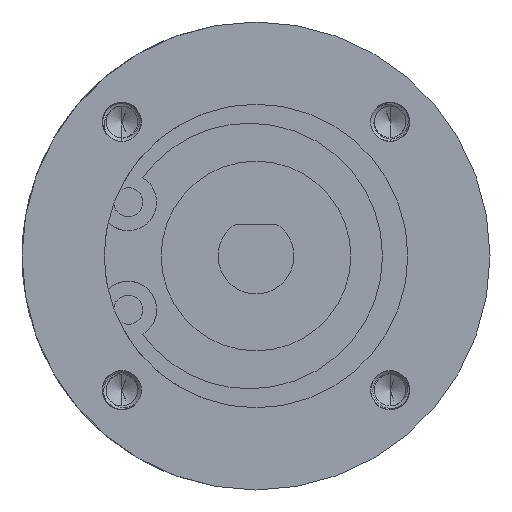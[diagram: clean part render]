
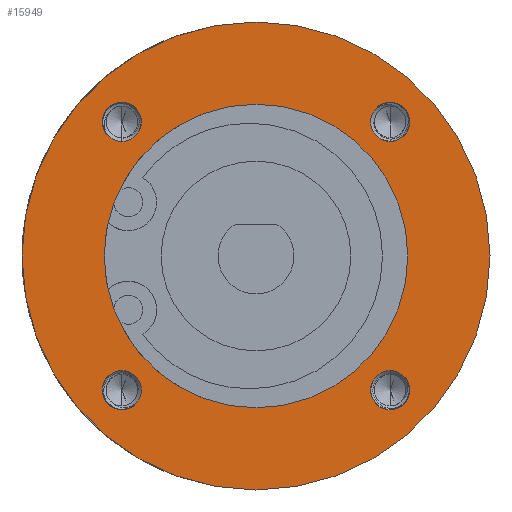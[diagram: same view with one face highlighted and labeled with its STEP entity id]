
A CAD part, left-side view. The second image highlights one B-rep face of the part: STEP entity #15949.
In plain terms, the highlighted planar face has unit normal (-1, 0, 0).
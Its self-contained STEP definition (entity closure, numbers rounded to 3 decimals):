
#390 = CARTESIAN_POINT ( 'NONE',  ( -19., 0., 18.5 ) ) ;
#441 = AXIS2_PLACEMENT_3D ( 'NONE', #4261, #11053, #10838 ) ;
#470 = VERTEX_POINT ( 'NONE', #6065 ) ;
#676 = CARTESIAN_POINT ( 'NONE',  ( -19., 10.607, 10.607 ) ) ;
#876 = EDGE_CURVE ( 'NONE', #13127, #10007, #6056, .T. ) ;
#878 = EDGE_LOOP ( 'NONE', ( #10673, #4763 ) ) ;
#1046 = DIRECTION ( 'NONE',  ( 0., 0., -1. ) ) ;
#1270 = CARTESIAN_POINT ( 'NONE',  ( -19., -10.607, -10.607 ) ) ;
#1383 = EDGE_CURVE ( 'NONE', #14547, #20508, #6130, .T. ) ;
#1467 = EDGE_CURVE ( 'NONE', #470, #19005, #19618, .T. ) ;
#1501 = EDGE_LOOP ( 'NONE', ( #7264, #9776 ) ) ;
#1585 = VERTEX_POINT ( 'NONE', #17810 ) ;
#1655 = FACE_BOUND ( 'NONE', #2922, .T. ) ;
#1696 = DIRECTION ( 'NONE',  ( 1., 0., 0. ) ) ;
#1872 = FACE_BOUND ( 'NONE', #12588, .T. ) ;
#2027 = ORIENTED_EDGE ( 'NONE', *, *, #3892, .T. ) ;
#2082 = AXIS2_PLACEMENT_3D ( 'NONE', #20740, #15626, #3611 ) ;
#2594 = AXIS2_PLACEMENT_3D ( 'NONE', #18816, #1696, #10373 ) ;
#2749 = EDGE_CURVE ( 'NONE', #10007, #13127, #7227, .T. ) ;
#2907 = DIRECTION ( 'NONE',  ( -1., 0., 0. ) ) ;
#2922 = EDGE_LOOP ( 'NONE', ( #4678, #2027 ) ) ;
#3062 = DIRECTION ( 'NONE',  ( -1., 0., 0. ) ) ;
#3183 = DIRECTION ( 'NONE',  ( 0., 0., -1. ) ) ;
#3341 = CIRCLE ( 'NONE', #18610, 1.55 ) ;
#3597 = DIRECTION ( 'NONE',  ( 1., 0., 0. ) ) ;
#3611 = DIRECTION ( 'NONE',  ( 0., 0., -1. ) ) ;
#3645 = AXIS2_PLACEMENT_3D ( 'NONE', #10485, #8823, #13935 ) ;
#3826 = ORIENTED_EDGE ( 'NONE', *, *, #5155, .T. ) ;
#3839 = AXIS2_PLACEMENT_3D ( 'NONE', #15333, #20555, #12221 ) ;
#3892 = EDGE_CURVE ( 'NONE', #17988, #5421, #3341, .T. ) ;
#4261 = CARTESIAN_POINT ( 'NONE',  ( -19., 10.607, -10.607 ) ) ;
#4265 = EDGE_CURVE ( 'NONE', #20508, #14547, #18762, .T. ) ;
#4388 = ORIENTED_EDGE ( 'NONE', *, *, #1383, .F. ) ;
#4489 = DIRECTION ( 'NONE',  ( 1., 0., 0. ) ) ;
#4657 = EDGE_LOOP ( 'NONE', ( #19891, #4388 ) ) ;
#4678 = ORIENTED_EDGE ( 'NONE', *, *, #4947, .T. ) ;
#4718 = CIRCLE ( 'NONE', #3645, 1.55 ) ;
#4763 = ORIENTED_EDGE ( 'NONE', *, *, #7713, .T. ) ;
#4947 = EDGE_CURVE ( 'NONE', #5421, #17988, #13462, .T. ) ;
#5107 = FACE_OUTER_BOUND ( 'NONE', #4657, .T. ) ;
#5155 = EDGE_CURVE ( 'NONE', #21045, #14775, #4718, .T. ) ;
#5421 = VERTEX_POINT ( 'NONE', #5913 ) ;
#5599 = CARTESIAN_POINT ( 'NONE',  ( -19., 10.607, -12.157 ) ) ;
#5700 = DIRECTION ( 'NONE',  ( 0., 0., -1. ) ) ;
#5778 = EDGE_CURVE ( 'NONE', #12423, #1585, #18925, .T. ) ;
#5913 = CARTESIAN_POINT ( 'NONE',  ( -19., 10.607, 12.157 ) ) ;
#5945 = CARTESIAN_POINT ( 'NONE',  ( -19., -10.607, -12.157 ) ) ;
#6056 = CIRCLE ( 'NONE', #13877, 1.55 ) ;
#6065 = CARTESIAN_POINT ( 'NONE',  ( -19., 10.607, -9.057 ) ) ;
#6130 = CIRCLE ( 'NONE', #8981, 18.5 ) ;
#6251 = DIRECTION ( 'NONE',  ( 0., 0., 1. ) ) ;
#6496 = CARTESIAN_POINT ( 'NONE',  ( -19., 10.607, 10.607 ) ) ;
#6635 = DIRECTION ( 'NONE',  ( 1., 0., 0. ) ) ;
#7211 = AXIS2_PLACEMENT_3D ( 'NONE', #9482, #2907, #6251 ) ;
#7227 = CIRCLE ( 'NONE', #2594, 1.55 ) ;
#7264 = ORIENTED_EDGE ( 'NONE', *, *, #876, .T. ) ;
#7713 = EDGE_CURVE ( 'NONE', #19005, #470, #17318, .T. ) ;
#7829 = CIRCLE ( 'NONE', #21015, 12. ) ;
#8288 = CARTESIAN_POINT ( 'NONE',  ( -19., 0., 0. ) ) ;
#8665 = FACE_BOUND ( 'NONE', #878, .T. ) ;
#8823 = DIRECTION ( 'NONE',  ( 1., 0., 0. ) ) ;
#8885 = PLANE ( 'NONE',  #3839 ) ;
#8981 = AXIS2_PLACEMENT_3D ( 'NONE', #9634, #3597, #20505 ) ;
#9482 = CARTESIAN_POINT ( 'NONE',  ( -19., 0., 0. ) ) ;
#9634 = CARTESIAN_POINT ( 'NONE',  ( -19., 0., 0. ) ) ;
#9776 = ORIENTED_EDGE ( 'NONE', *, *, #2749, .T. ) ;
#10007 = VERTEX_POINT ( 'NONE', #12847 ) ;
#10373 = DIRECTION ( 'NONE',  ( 0., 0., -1. ) ) ;
#10485 = CARTESIAN_POINT ( 'NONE',  ( -19., -10.607, -10.607 ) ) ;
#10673 = ORIENTED_EDGE ( 'NONE', *, *, #1467, .T. ) ;
#10838 = DIRECTION ( 'NONE',  ( 0., 0., -1. ) ) ;
#11053 = DIRECTION ( 'NONE',  ( 1., 0., 0. ) ) ;
#11080 = CARTESIAN_POINT ( 'NONE',  ( -19., -10.607, 10.607 ) ) ;
#11648 = CARTESIAN_POINT ( 'NONE',  ( -19., 10.607, -10.607 ) ) ;
#11683 = CIRCLE ( 'NONE', #15222, 1.55 ) ;
#12221 = DIRECTION ( 'NONE',  ( 0., 0., -1. ) ) ;
#12299 = CARTESIAN_POINT ( 'NONE',  ( -19., -10.607, 12.157 ) ) ;
#12311 = EDGE_LOOP ( 'NONE', ( #18868, #12963 ) ) ;
#12423 = VERTEX_POINT ( 'NONE', #17967 ) ;
#12588 = EDGE_LOOP ( 'NONE', ( #17296, #3826 ) ) ;
#12847 = CARTESIAN_POINT ( 'NONE',  ( -19., -10.607, 9.057 ) ) ;
#12963 = ORIENTED_EDGE ( 'NONE', *, *, #5778, .F. ) ;
#13127 = VERTEX_POINT ( 'NONE', #12299 ) ;
#13462 = CIRCLE ( 'NONE', #19129, 1.55 ) ;
#13714 = DIRECTION ( 'NONE',  ( 1., 0., 0. ) ) ;
#13877 = AXIS2_PLACEMENT_3D ( 'NONE', #11080, #17943, #15967 ) ;
#13935 = DIRECTION ( 'NONE',  ( 0., 0., -1. ) ) ;
#14137 = DIRECTION ( 'NONE',  ( 0., 0., -1. ) ) ;
#14208 = EDGE_CURVE ( 'NONE', #1585, #12423, #7829, .T. ) ;
#14547 = VERTEX_POINT ( 'NONE', #18403 ) ;
#14775 = VERTEX_POINT ( 'NONE', #15508 ) ;
#15222 = AXIS2_PLACEMENT_3D ( 'NONE', #1270, #4489, #1046 ) ;
#15333 = CARTESIAN_POINT ( 'NONE',  ( -19., 0., 0. ) ) ;
#15508 = CARTESIAN_POINT ( 'NONE',  ( -19., -10.607, -9.057 ) ) ;
#15626 = DIRECTION ( 'NONE',  ( 1., 0., 0. ) ) ;
#15661 = FACE_BOUND ( 'NONE', #1501, .T. ) ;
#15798 = DIRECTION ( 'NONE',  ( 1., 0., 0. ) ) ;
#15949 = ADVANCED_FACE ( 'NONE', ( #1655, #15661, #1872, #8665, #19104, #5107 ), #8885, .F. ) ;
#15967 = DIRECTION ( 'NONE',  ( 0., 0., -1. ) ) ;
#17296 = ORIENTED_EDGE ( 'NONE', *, *, #20744, .T. ) ;
#17318 = CIRCLE ( 'NONE', #21959, 1.55 ) ;
#17810 = CARTESIAN_POINT ( 'NONE',  ( -19., 0., 12. ) ) ;
#17943 = DIRECTION ( 'NONE',  ( 1., 0., 0. ) ) ;
#17967 = CARTESIAN_POINT ( 'NONE',  ( -19., 0., -12. ) ) ;
#17988 = VERTEX_POINT ( 'NONE', #21675 ) ;
#18403 = CARTESIAN_POINT ( 'NONE',  ( -19., 0., -18.5 ) ) ;
#18610 = AXIS2_PLACEMENT_3D ( 'NONE', #676, #15798, #14137 ) ;
#18762 = CIRCLE ( 'NONE', #2082, 18.5 ) ;
#18816 = CARTESIAN_POINT ( 'NONE',  ( -19., -10.607, 10.607 ) ) ;
#18868 = ORIENTED_EDGE ( 'NONE', *, *, #14208, .F. ) ;
#18925 = CIRCLE ( 'NONE', #7211, 12. ) ;
#19005 = VERTEX_POINT ( 'NONE', #5599 ) ;
#19104 = FACE_BOUND ( 'NONE', #12311, .T. ) ;
#19129 = AXIS2_PLACEMENT_3D ( 'NONE', #6496, #13714, #5700 ) ;
#19618 = CIRCLE ( 'NONE', #441, 1.55 ) ;
#19891 = ORIENTED_EDGE ( 'NONE', *, *, #4265, .F. ) ;
#20079 = DIRECTION ( 'NONE',  ( 0., 0., 1. ) ) ;
#20505 = DIRECTION ( 'NONE',  ( 0., 0., -1. ) ) ;
#20508 = VERTEX_POINT ( 'NONE', #390 ) ;
#20555 = DIRECTION ( 'NONE',  ( 1., 0., 0. ) ) ;
#20740 = CARTESIAN_POINT ( 'NONE',  ( -19., 0., 0. ) ) ;
#20744 = EDGE_CURVE ( 'NONE', #14775, #21045, #11683, .T. ) ;
#21015 = AXIS2_PLACEMENT_3D ( 'NONE', #8288, #3062, #20079 ) ;
#21045 = VERTEX_POINT ( 'NONE', #5945 ) ;
#21675 = CARTESIAN_POINT ( 'NONE',  ( -19., 10.607, 9.057 ) ) ;
#21959 = AXIS2_PLACEMENT_3D ( 'NONE', #11648, #6635, #3183 ) ;
